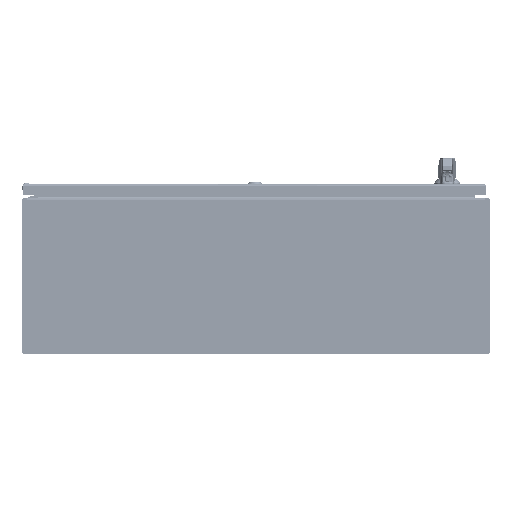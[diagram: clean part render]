
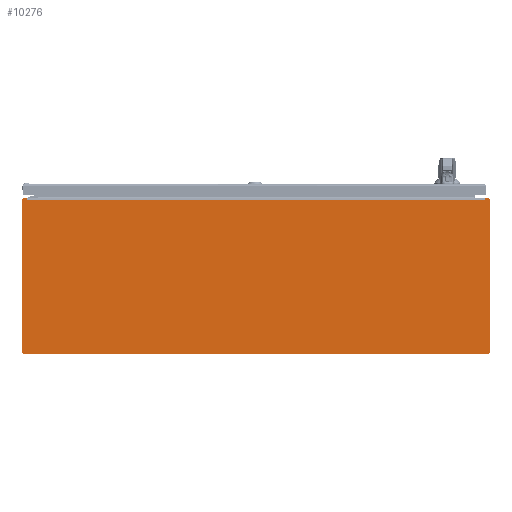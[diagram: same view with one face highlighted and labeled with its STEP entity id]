
A CAD part, front view. The second image highlights one B-rep face of the part: STEP entity #10276.
In plain terms, the highlighted planar face has unit normal (0, -1, 0) as drawn and (0, 1, 0) by its records, which use the part's own axes.
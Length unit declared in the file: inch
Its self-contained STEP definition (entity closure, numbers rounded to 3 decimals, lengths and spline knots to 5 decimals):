
#9067=CARTESIAN_POINT('',(17.915,0.,5.934));
#9068=DIRECTION('',(0.,1.,0.));
#9069=DIRECTION('',(0.,0.,1.));
#9070=AXIS2_PLACEMENT_3D('',#9067,#9068,#9069);
#9075=DIRECTION('',(-1.,0.,0.));
#9076=VECTOR('',#9075,0.2939);
#9077=CARTESIAN_POINT('',(17.915,0.,5.994));
#9078=LINE('',#9077,#9076);
#9082=DIRECTION('',(-1.,0.,0.));
#9083=VECTOR('',#9082,0.2939);
#9084=CARTESIAN_POINT('',(-17.6211,0.,5.994));
#9085=LINE('',#9084,#9083);
#9089=CARTESIAN_POINT('',(-17.915,0.,5.934));
#9090=DIRECTION('',(0.,1.,0.));
#9091=DIRECTION('',(-1.,0.,0.));
#9092=AXIS2_PLACEMENT_3D('',#9089,#9090,#9091);
#9097=DIRECTION('',(0.,0.,-1.));
#9098=VECTOR('',#9097,11.765);
#9099=CARTESIAN_POINT('',(-17.975,0.,5.934));
#9100=LINE('',#9099,#9098);
#9104=CARTESIAN_POINT('',(-17.85,0.,-5.831));
#9105=DIRECTION('',(0.,1.,0.));
#9106=DIRECTION('',(0.,0.,-1.));
#9107=AXIS2_PLACEMENT_3D('',#9104,#9105,#9106);
#9112=DIRECTION('',(1.,0.,0.));
#9113=VECTOR('',#9112,35.7);
#9114=CARTESIAN_POINT('',(-17.85,0.,-5.956));
#9115=LINE('',#9114,#9113);
#9119=CARTESIAN_POINT('',(17.85,0.,-5.831));
#9120=DIRECTION('',(0.,1.,0.));
#9121=DIRECTION('',(1.,0.,0.));
#9122=AXIS2_PLACEMENT_3D('',#9119,#9120,#9121);
#9127=DIRECTION('',(0.,0.,-1.));
#9128=VECTOR('',#9127,11.765);
#9129=CARTESIAN_POINT('',(17.975,0.,5.934));
#9130=LINE('',#9129,#9128);
#9197=DIRECTION('',(0.,0.,-1.));
#9198=VECTOR('',#9197,0.125);
#9199=CARTESIAN_POINT('',(-17.6211,0.,5.994));
#9200=LINE('',#9199,#9198);
#9785=DIRECTION('',(-1.,0.,0.));
#9786=VECTOR('',#9785,35.2422);
#9787=CARTESIAN_POINT('',(17.6211,0.,5.869));
#9788=LINE('',#9787,#9786);
#9822=DIRECTION('',(0.,0.,1.));
#9823=VECTOR('',#9822,0.125);
#9824=CARTESIAN_POINT('',(17.6211,0.,5.869));
#9825=LINE('',#9824,#9823);
#10081=CARTESIAN_POINT('',(17.6211,0.,5.869));
#10082=CARTESIAN_POINT('',(-17.6211,0.,5.869));
#10083=VERTEX_POINT('',#10081);
#10084=VERTEX_POINT('',#10082);
#10165=CARTESIAN_POINT('',(-17.6211,0.,5.994));
#10167=VERTEX_POINT('',#10165);
#10169=CARTESIAN_POINT('',(17.6211,0.,5.994));
#10171=VERTEX_POINT('',#10169);
#10213=CARTESIAN_POINT('',(17.915,0.,5.994));
#10214=CARTESIAN_POINT('',(17.975,0.,5.934));
#10215=VERTEX_POINT('',#10213);
#10216=VERTEX_POINT('',#10214);
#10221=CARTESIAN_POINT('',(-17.975,0.,5.934));
#10222=CARTESIAN_POINT('',(-17.915,0.,5.994));
#10223=VERTEX_POINT('',#10221);
#10224=VERTEX_POINT('',#10222);
#10229=CARTESIAN_POINT('',(-17.85,0.,-5.956));
#10230=CARTESIAN_POINT('',(-17.975,0.,-5.831));
#10231=VERTEX_POINT('',#10229);
#10232=VERTEX_POINT('',#10230);
#10237=CARTESIAN_POINT('',(17.975,0.,-5.831));
#10238=CARTESIAN_POINT('',(17.85,0.,-5.956));
#10239=VERTEX_POINT('',#10237);
#10240=VERTEX_POINT('',#10238);
#10245=CARTESIAN_POINT('',(0.,0.,0.));
#10246=DIRECTION('',(0.,1.,0.));
#10247=DIRECTION('',(1.,0.,0.));
#10248=AXIS2_PLACEMENT_3D('',#10245,#10246,#10247);
#10249=PLANE('',#10248);
#10251=ORIENTED_EDGE('',*,*,#10250,.F.);
#10253=ORIENTED_EDGE('',*,*,#10252,.T.);
#10255=ORIENTED_EDGE('',*,*,#10254,.F.);
#10257=ORIENTED_EDGE('',*,*,#10256,.T.);
#10259=ORIENTED_EDGE('',*,*,#10258,.F.);
#10261=ORIENTED_EDGE('',*,*,#10260,.T.);
#10263=ORIENTED_EDGE('',*,*,#10262,.F.);
#10265=ORIENTED_EDGE('',*,*,#10264,.T.);
#10267=ORIENTED_EDGE('',*,*,#10266,.F.);
#10269=ORIENTED_EDGE('',*,*,#10268,.T.);
#10271=ORIENTED_EDGE('',*,*,#10270,.F.);
#10273=ORIENTED_EDGE('',*,*,#10272,.F.);
#10274=EDGE_LOOP('',(#10251,#10253,#10255,#10257,#10259,#10261,#10263,#10265,
#10267,#10269,#10271,#10273));
#10275=FACE_OUTER_BOUND('',#10274,.F.);
#9071=CIRCLE('',#9070,0.06);
#9093=CIRCLE('',#9092,0.06);
#9108=CIRCLE('',#9107,0.125);
#9123=CIRCLE('',#9122,0.125);
#10250=EDGE_CURVE('',#10215,#10216,#9071,.T.);
#10252=EDGE_CURVE('',#10215,#10171,#9078,.T.);
#10254=EDGE_CURVE('',#10083,#10171,#9825,.T.);
#10256=EDGE_CURVE('',#10083,#10084,#9788,.T.);
#10258=EDGE_CURVE('',#10167,#10084,#9200,.T.);
#10260=EDGE_CURVE('',#10167,#10224,#9085,.T.);
#10262=EDGE_CURVE('',#10223,#10224,#9093,.T.);
#10264=EDGE_CURVE('',#10223,#10232,#9100,.T.);
#10266=EDGE_CURVE('',#10231,#10232,#9108,.T.);
#10268=EDGE_CURVE('',#10231,#10240,#9115,.T.);
#10270=EDGE_CURVE('',#10239,#10240,#9123,.T.);
#10272=EDGE_CURVE('',#10216,#10239,#9130,.T.);
#10276=ADVANCED_FACE('',(#10275),#10249,.T.);
